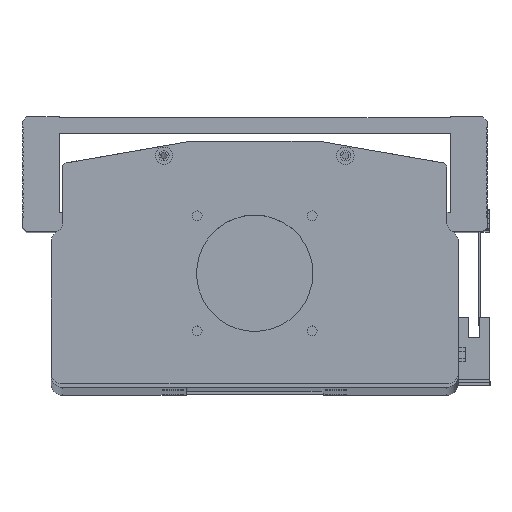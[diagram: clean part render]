
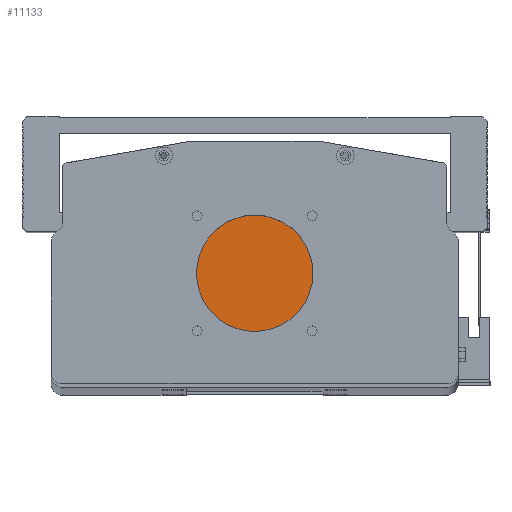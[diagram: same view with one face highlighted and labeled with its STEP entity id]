
A CAD part, top view. The second image highlights one B-rep face of the part: STEP entity #11133.
In plain terms, the highlighted planar face has unit normal (0, 0, 1).
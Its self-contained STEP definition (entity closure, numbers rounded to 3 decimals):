
#1751 = CIRCLE ( 'NONE', #20976, 25. ) ;
#7075 = AXIS2_PLACEMENT_3D ( 'NONE', #14189, #35522, #17313 ) ;
#7955 = EDGE_LOOP ( 'NONE', ( #14088, #12578 ) ) ;
#10127 = VERTEX_POINT ( 'NONE', #29854 ) ;
#10282 = PLANE ( 'NONE',  #39484 ) ;
#10518 = CARTESIAN_POINT ( 'NONE',  ( 87.5, 47.5, 0. ) ) ;
#11133 = ADVANCED_FACE ( 'NONE', ( #28357 ), #10282, .T. ) ;
#12304 = CIRCLE ( 'NONE', #7075, 25. ) ;
#12578 = ORIENTED_EDGE ( 'NONE', *, *, #13843, .T. ) ;
#13425 = DIRECTION ( 'NONE',  ( 1., 0., 0. ) ) ;
#13651 = DIRECTION ( 'NONE',  ( 1., 0., 0. ) ) ;
#13668 = VERTEX_POINT ( 'NONE', #31126 ) ;
#13843 = EDGE_CURVE ( 'NONE', #10127, #13668, #1751, .T. ) ;
#14088 = ORIENTED_EDGE ( 'NONE', *, *, #15619, .T. ) ;
#14189 = CARTESIAN_POINT ( 'NONE',  ( 87.5, 47.5, 0. ) ) ;
#15619 = EDGE_CURVE ( 'NONE', #13668, #10127, #12304, .T. ) ;
#17313 = DIRECTION ( 'NONE',  ( 1., 0., 0. ) ) ;
#20976 = AXIS2_PLACEMENT_3D ( 'NONE', #10518, #31894, #13651 ) ;
#25592 = CARTESIAN_POINT ( 'NONE',  ( 0., 0., 0. ) ) ;
#28357 = FACE_OUTER_BOUND ( 'NONE', #7955, .T. ) ;
#29854 = CARTESIAN_POINT ( 'NONE',  ( 112.5, 47.5, 0. ) ) ;
#31126 = CARTESIAN_POINT ( 'NONE',  ( 62.5, 47.5, 0. ) ) ;
#31675 = DIRECTION ( 'NONE',  ( 0., 0., 1. ) ) ;
#31894 = DIRECTION ( 'NONE',  ( 0., 0., 1. ) ) ;
#35522 = DIRECTION ( 'NONE',  ( 0., 0., 1. ) ) ;
#39484 = AXIS2_PLACEMENT_3D ( 'NONE', #25592, #31675, #13425 ) ;
